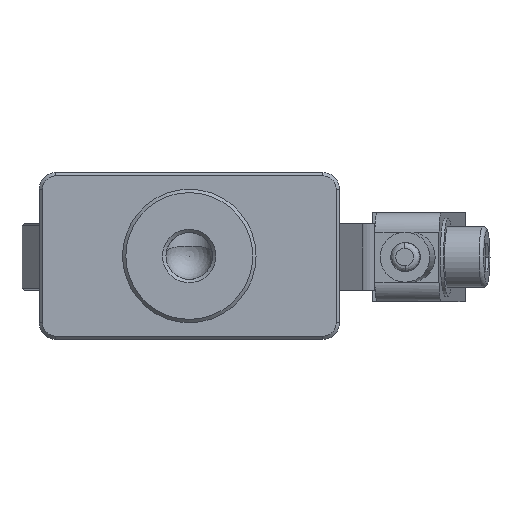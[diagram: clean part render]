
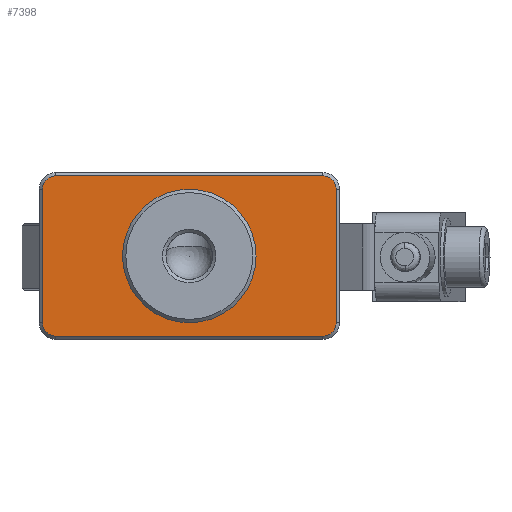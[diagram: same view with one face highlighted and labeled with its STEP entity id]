
A CAD part, front view. The second image highlights one B-rep face of the part: STEP entity #7398.
In plain terms, the highlighted planar face has unit normal (0, -1, 0).
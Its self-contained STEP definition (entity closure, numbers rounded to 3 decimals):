
#6843=FACE_BOUND('',#10058,.T.);
#6844=FACE_BOUND('',#10059,.T.);
#7398=ADVANCED_FACE('',(#6843,#6844),#8292,.T.);
#8292=PLANE('',#23768);
#10058=EDGE_LOOP('',(#11861,#11862,#11863,#11864,#11865,#11866,#11867,#11868));
#10059=EDGE_LOOP('',(#11869));
#11018=CIRCLE('',#23591,6.);
#11061=CIRCLE('',#23679,1.2);
#11063=CIRCLE('',#23683,1.2);
#11078=CIRCLE('',#23713,1.2);
#11080=CIRCLE('',#23717,1.2);
#11861=ORIENTED_EDGE('',*,*,#17557,.T.);
#11862=ORIENTED_EDGE('',*,*,#17667,.T.);
#11863=ORIENTED_EDGE('',*,*,#17670,.T.);
#11864=ORIENTED_EDGE('',*,*,#17671,.T.);
#11865=ORIENTED_EDGE('',*,*,#17561,.T.);
#11866=ORIENTED_EDGE('',*,*,#17645,.T.);
#11867=ORIENTED_EDGE('',*,*,#17643,.T.);
#11868=ORIENTED_EDGE('',*,*,#17640,.T.);
#11869=ORIENTED_EDGE('',*,*,#17509,.F.);
#16050=VERTEX_POINT('',#29578);
#16085=VERTEX_POINT('',#29692);
#16086=VERTEX_POINT('',#29694);
#16087=VERTEX_POINT('',#29701);
#16088=VERTEX_POINT('',#29702);
#16129=VERTEX_POINT('',#29934);
#16131=VERTEX_POINT('',#29940);
#16139=VERTEX_POINT('',#30073);
#16140=VERTEX_POINT('',#30078);
#17509=EDGE_CURVE('',#16050,#16050,#11018,.T.);
#17557=EDGE_CURVE('',#16086,#16085,#19807,.T.);
#17561=EDGE_CURVE('',#16087,#16088,#19811,.T.);
#17640=EDGE_CURVE('',#16129,#16086,#11061,.T.);
#17643=EDGE_CURVE('',#16131,#16129,#19853,.T.);
#17645=EDGE_CURVE('',#16088,#16131,#11063,.T.);
#17667=EDGE_CURVE('',#16085,#16139,#11078,.T.);
#17670=EDGE_CURVE('',#16139,#16140,#19862,.T.);
#17671=EDGE_CURVE('',#16140,#16087,#11080,.T.);
#19807=LINE('',#29693,#21709);
#19811=LINE('',#29700,#21713);
#19853=LINE('',#29943,#21755);
#19862=LINE('',#30079,#21764);
#21709=VECTOR('',#25065,1.);
#21713=VECTOR('',#25073,1.);
#21755=VECTOR('',#25235,1.);
#21764=VECTOR('',#25314,1.);
#23591=AXIS2_PLACEMENT_3D('',#29577,#24979,#24980);
#23679=AXIS2_PLACEMENT_3D('',#29937,#25229,#25230);
#23683=AXIS2_PLACEMENT_3D('',#29946,#25240,#25241);
#23713=AXIS2_PLACEMENT_3D('',#30074,#25307,#25308);
#23717=AXIS2_PLACEMENT_3D('',#30081,#25317,#25318);
#23768=AXIS2_PLACEMENT_3D('',#30331,#25430,#25431);
#24979=DIRECTION('',(0.,-1.,0.));
#24980=DIRECTION('',(1.,0.,0.));
#25065=DIRECTION('',(0.,0.,-1.));
#25073=DIRECTION('',(0.,0.,1.));
#25229=DIRECTION('',(0.,-1.,0.));
#25230=DIRECTION('',(0.,0.,-1.));
#25235=DIRECTION('',(-1.,0.,0.));
#25240=DIRECTION('',(0.,-1.,0.));
#25241=DIRECTION('',(0.,0.,-1.));
#25307=DIRECTION('',(0.,-1.,0.));
#25308=DIRECTION('',(0.,0.,-1.));
#25314=DIRECTION('',(1.,0.,0.));
#25317=DIRECTION('',(0.,-1.,0.));
#25318=DIRECTION('',(0.,0.,-1.));
#25430=DIRECTION('',(0.,-1.,0.));
#25431=DIRECTION('',(0.,0.,1.));
#29577=CARTESIAN_POINT('',(88.412,-23.942,74.9));
#29578=CARTESIAN_POINT('',(94.412,-23.942,74.9));
#29692=CARTESIAN_POINT('',(75.212,-23.942,68.9));
#29693=CARTESIAN_POINT('',(75.212,-23.942,82.4));
#29694=CARTESIAN_POINT('',(75.212,-23.942,80.9));
#29700=CARTESIAN_POINT('',(101.612,-23.942,82.4));
#29701=CARTESIAN_POINT('',(101.612,-23.942,68.9));
#29702=CARTESIAN_POINT('',(101.612,-23.942,80.9));
#29934=CARTESIAN_POINT('',(76.412,-23.942,82.1));
#29937=CARTESIAN_POINT('',(76.412,-23.942,80.9));
#29940=CARTESIAN_POINT('',(100.412,-23.942,82.1));
#29943=CARTESIAN_POINT('',(76.412,-23.942,82.1));
#29946=CARTESIAN_POINT('',(100.412,-23.942,80.9));
#30073=CARTESIAN_POINT('',(76.412,-23.942,67.7));
#30074=CARTESIAN_POINT('',(76.412,-23.942,68.9));
#30078=CARTESIAN_POINT('',(100.412,-23.942,67.7));
#30079=CARTESIAN_POINT('',(100.912,-23.942,67.7));
#30081=CARTESIAN_POINT('',(100.412,-23.942,68.9));
#30331=CARTESIAN_POINT('',(100.912,-23.942,82.4));
